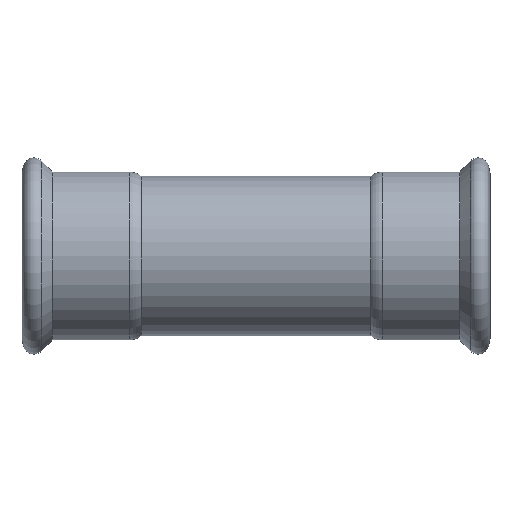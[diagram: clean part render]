
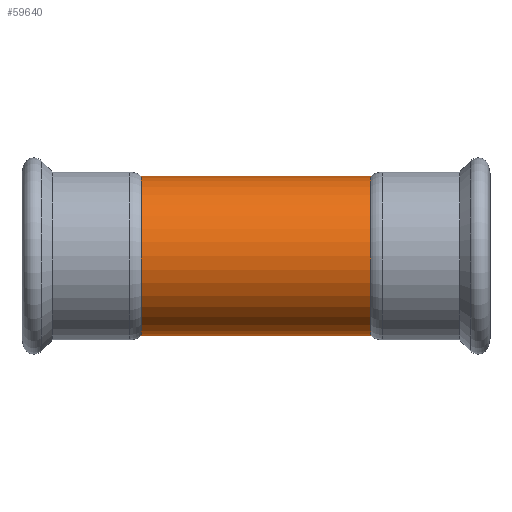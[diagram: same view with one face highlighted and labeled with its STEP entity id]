
A CAD part, top view. The second image highlights one B-rep face of the part: STEP entity #59640.
In plain terms, the highlighted cylindrical face has radius 44.45 mm (diameter 88.9 mm), a partial arc.
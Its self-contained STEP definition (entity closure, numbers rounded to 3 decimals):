
#210=CARTESIAN_POINT('',(22.9,0.,0.));
#220=DIRECTION('',(1.,0.,0.));
#230=DIRECTION('',(0.,1.,0.));
#240=AXIS2_PLACEMENT_3D('',#210,#220,#230);
#250=CIRCLE('',#240,44.45);
#260=CARTESIAN_POINT('',(22.9,44.45,0.));
#270=VERTEX_POINT('',#260);
#280=CARTESIAN_POINT('',(22.9,-44.45,0.));
#290=VERTEX_POINT('',#280);
#300=EDGE_CURVE('',#270,#290,#250,.T.);
#570=CARTESIAN_POINT('',(-105.1,0.,0.));
#580=DIRECTION('',(1.,0.,0.));
#590=DIRECTION('',(0.,1.,0.));
#600=AXIS2_PLACEMENT_3D('',#570,#580,#590);
#610=CIRCLE('',#600,44.45);
#620=CARTESIAN_POINT('',(-105.1,44.45,0.));
#630=VERTEX_POINT('',#620);
#640=CARTESIAN_POINT('',(-105.1,-44.45,0.));
#650=VERTEX_POINT('',#640);
#660=EDGE_CURVE('',#630,#650,#610,.T.);
#29680=CARTESIAN_POINT('',(5.,0.,0.));
#29690=DIRECTION('',(1.,0.,0.));
#29700=DIRECTION('',(0.,1.,0.));
#29710=AXIS2_PLACEMENT_3D('',#29680,#29690,#29700);
#29720=CYLINDRICAL_SURFACE('',#29710,44.45);
#29730=CARTESIAN_POINT('',(5.,-44.45,0.));
#29740=DIRECTION('',(1.,0.,0.));
#29750=VECTOR('',#29740,1.);
#29760=LINE('',#29730,#29750);
#29770=EDGE_CURVE('',#650,#290,#29760,.T.);
#29800=CARTESIAN_POINT('',(5.,44.45,0.));
#29810=DIRECTION('',(1.,0.,0.));
#29820=VECTOR('',#29810,1.);
#29830=LINE('',#29800,#29820);
#29840=EDGE_CURVE('',#630,#270,#29830,.T.);
#59580=ORIENTED_EDGE('',*,*,#300,.F.);
#59590=ORIENTED_EDGE('',*,*,#29770,.T.);
#59600=ORIENTED_EDGE('',*,*,#660,.T.);
#59610=ORIENTED_EDGE('',*,*,#29840,.F.);
#59620=EDGE_LOOP('',(#59610,#59600,#59590,#59580));
#59630=FACE_OUTER_BOUND('',#59620,.T.);
#59640=ADVANCED_FACE('',(#59630),#29720,.T.);
